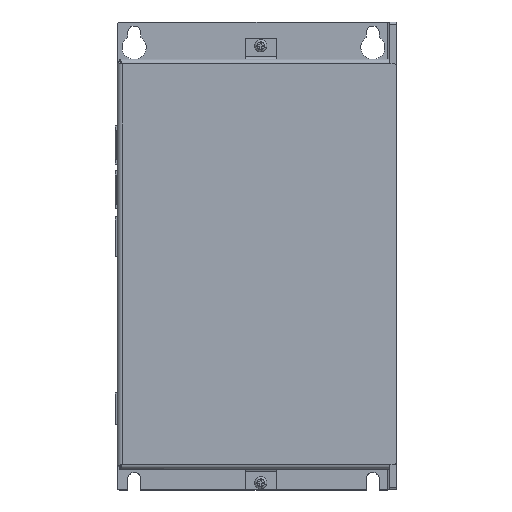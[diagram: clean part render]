
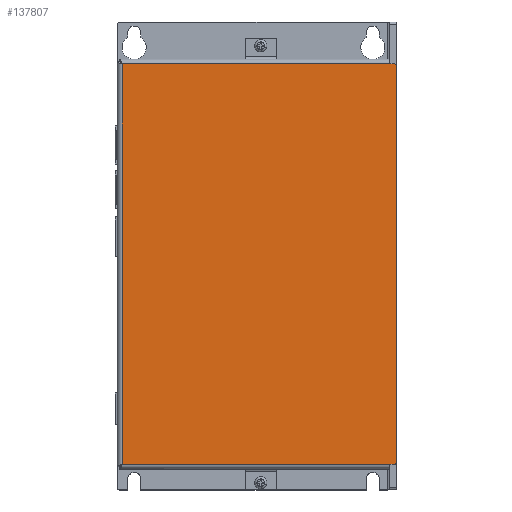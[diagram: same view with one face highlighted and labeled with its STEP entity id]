
A CAD part, top view. The second image highlights one B-rep face of the part: STEP entity #137807.
In plain terms, the highlighted planar face has unit normal (0, 0, 1) as drawn and (0, 1, 0) by its records, which use the part's own axes.
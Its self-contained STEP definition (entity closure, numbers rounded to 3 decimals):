
#135451=CARTESIAN_POINT('',(-82.,1.,-57.));
#135452=DIRECTION('',(0.,1.,0.));
#135453=DIRECTION('',(0.,0.,-1.));
#135454=AXIS2_PLACEMENT_3D('',#135451,#135452,#135453);
#135459=DIRECTION('',(-1.,0.,0.));
#135460=VECTOR('',#135459,164.);
#135461=CARTESIAN_POINT('',(82.,1.,-58.));
#135462=LINE('',#135461,#135460);
#135466=CARTESIAN_POINT('',(82.,1.,-57.));
#135467=DIRECTION('',(0.,1.,0.));
#135468=DIRECTION('',(1.,0.,0.));
#135469=AXIS2_PLACEMENT_3D('',#135466,#135467,#135468);
#135474=DIRECTION('',(0.,0.,1.));
#135475=VECTOR('',#135474,2.);
#135476=CARTESIAN_POINT('',(83.,1.,-57.));
#135477=LINE('',#135476,#135475);
#135481=DIRECTION('',(0.,0.,1.));
#135482=VECTOR('',#135481,2.);
#135483=CARTESIAN_POINT('',(-83.,1.,-57.));
#135484=LINE('',#135483,#135482);
#135515=DIRECTION('',(0.,0.,-1.));
#135516=VECTOR('',#135515,111.);
#135517=CARTESIAN_POINT('',(83.,1.,56.));
#135518=LINE('',#135517,#135516);
#136041=DIRECTION('',(-1.,0.,0.));
#136042=VECTOR('',#136041,166.);
#136043=CARTESIAN_POINT('',(83.,1.,56.));
#136044=LINE('',#136043,#136042);
#136669=DIRECTION('',(0.,0.,1.));
#136670=VECTOR('',#136669,111.);
#136671=CARTESIAN_POINT('',(-83.,1.,-55.));
#136672=LINE('',#136671,#136670);
#137103=CARTESIAN_POINT('',(83.,1.,56.));
#137104=CARTESIAN_POINT('',(-83.,1.,56.));
#137105=VERTEX_POINT('',#137103);
#137106=VERTEX_POINT('',#137104);
#137309=CARTESIAN_POINT('',(-83.,1.,-55.));
#137310=VERTEX_POINT('',#137309);
#137312=CARTESIAN_POINT('',(83.,1.,-55.));
#137314=VERTEX_POINT('',#137312);
#137407=CARTESIAN_POINT('',(-82.,1.,-58.));
#137408=VERTEX_POINT('',#137407);
#137409=CARTESIAN_POINT('',(-83.,1.,-57.));
#137410=VERTEX_POINT('',#137409);
#137415=CARTESIAN_POINT('',(83.,1.,-57.));
#137416=VERTEX_POINT('',#137415);
#137417=CARTESIAN_POINT('',(82.,1.,-58.));
#137418=VERTEX_POINT('',#137417);
#137789=CARTESIAN_POINT('',(0.,1.,0.));
#137790=DIRECTION('',(0.,1.,0.));
#137791=DIRECTION('',(1.,0.,0.));
#137792=AXIS2_PLACEMENT_3D('',#137789,#137790,#137791);
#137793=PLANE('',#137792);
#137794=ORIENTED_EDGE('',*,*,#137451,.F.);
#137795=ORIENTED_EDGE('',*,*,#137467,.F.);
#137796=ORIENTED_EDGE('',*,*,#137480,.F.);
#137797=ORIENTED_EDGE('',*,*,#137495,.T.);
#137799=ORIENTED_EDGE('',*,*,#137798,.F.);
#137801=ORIENTED_EDGE('',*,*,#137800,.T.);
#137803=ORIENTED_EDGE('',*,*,#137802,.F.);
#137804=ORIENTED_EDGE('',*,*,#137782,.F.);
#137805=EDGE_LOOP('',(#137794,#137795,#137796,#137797,#137799,#137801,#137803,
#137804));
#137806=FACE_OUTER_BOUND('',#137805,.F.);
#135455=CIRCLE('',#135454,1.);
#135470=CIRCLE('',#135469,1.);
#137451=EDGE_CURVE('',#137408,#137410,#135455,.T.);
#137467=EDGE_CURVE('',#137418,#137408,#135462,.T.);
#137480=EDGE_CURVE('',#137416,#137418,#135470,.T.);
#137495=EDGE_CURVE('',#137416,#137314,#135477,.T.);
#137782=EDGE_CURVE('',#137410,#137310,#135484,.T.);
#137798=EDGE_CURVE('',#137105,#137314,#135518,.T.);
#137800=EDGE_CURVE('',#137105,#137106,#136044,.T.);
#137802=EDGE_CURVE('',#137310,#137106,#136672,.T.);
#137807=ADVANCED_FACE('',(#137806),#137793,.T.);
